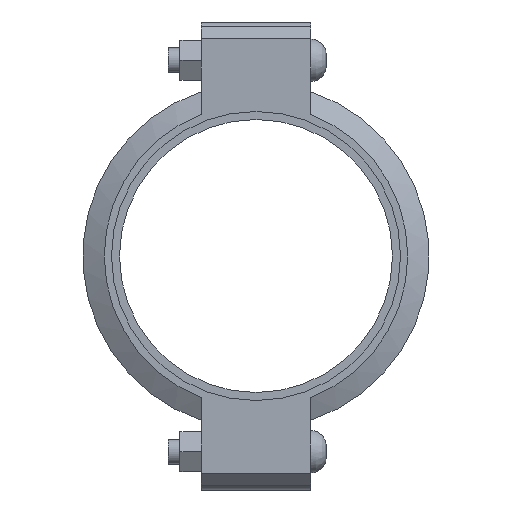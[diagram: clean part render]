
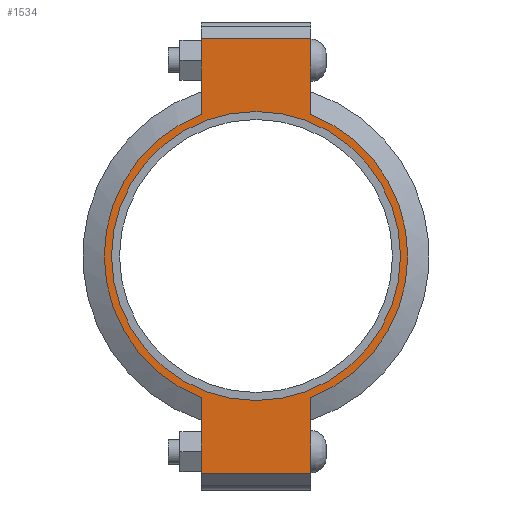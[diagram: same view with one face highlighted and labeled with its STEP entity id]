
A CAD part, left-side view. The second image highlights one B-rep face of the part: STEP entity #1534.
In plain terms, the highlighted planar face has unit normal (-1, 0, 0) as drawn and (0, 0, 1) by its records, which use the part's own axes.
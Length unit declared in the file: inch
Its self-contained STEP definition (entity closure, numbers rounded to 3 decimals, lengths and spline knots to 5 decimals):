
#158=LINE('',#2677,#251);
#166=LINE('',#2713,#259);
#173=LINE('',#2734,#266);
#182=LINE('',#2766,#275);
#183=LINE('',#2770,#276);
#184=LINE('',#2772,#277);
#251=VECTOR('',#2185,0.3937);
#259=VECTOR('',#2201,0.3937);
#266=VECTOR('',#2220,0.3937);
#275=VECTOR('',#2245,0.3937);
#276=VECTOR('',#2250,0.3937);
#277=VECTOR('',#2251,0.3937);
#333=FACE_BOUND('',#511,.T.);
#405=FACE_OUTER_BOUND('',#510,.T.);
#510=EDGE_LOOP('',(#1275,#1276,#1277,#1278,#1279,#1280,#1281,#1282));
#511=EDGE_LOOP('',(#1283));
#583=CIRCLE('',#1753,4.3125);
#609=CIRCLE('',#1812,4.53);
#610=CIRCLE('',#1813,4.53);
#675=VERTEX_POINT('',#2493);
#718=VERTEX_POINT('',#2674);
#719=VERTEX_POINT('',#2676);
#730=VERTEX_POINT('',#2708);
#731=VERTEX_POINT('',#2712);
#738=VERTEX_POINT('',#2731);
#739=VERTEX_POINT('',#2733);
#749=VERTEX_POINT('',#2769);
#750=VERTEX_POINT('',#2771);
#831=EDGE_CURVE('',#675,#675,#583,.T.);
#892=EDGE_CURVE('',#719,#718,#158,.T.);
#906=EDGE_CURVE('',#731,#730,#166,.T.);
#916=EDGE_CURVE('',#739,#738,#173,.T.);
#931=EDGE_CURVE('',#731,#718,#182,.T.);
#932=EDGE_CURVE('',#730,#739,#609,.T.);
#933=EDGE_CURVE('',#749,#738,#183,.T.);
#934=EDGE_CURVE('',#749,#750,#184,.T.);
#935=EDGE_CURVE('',#750,#719,#610,.T.);
#1275=ORIENTED_EDGE('',*,*,#931,.F.);
#1276=ORIENTED_EDGE('',*,*,#906,.T.);
#1277=ORIENTED_EDGE('',*,*,#932,.T.);
#1278=ORIENTED_EDGE('',*,*,#916,.T.);
#1279=ORIENTED_EDGE('',*,*,#933,.F.);
#1280=ORIENTED_EDGE('',*,*,#934,.T.);
#1281=ORIENTED_EDGE('',*,*,#935,.T.);
#1282=ORIENTED_EDGE('',*,*,#892,.T.);
#1283=ORIENTED_EDGE('',*,*,#831,.T.);
#1376=PLANE('',#1811);
#1534=ADVANCED_FACE('',(#405,#333),#1376,.T.);
#1753=AXIS2_PLACEMENT_3D('',#2495,#2061,#2062);
#1811=AXIS2_PLACEMENT_3D('',#2767,#2246,#2247);
#1812=AXIS2_PLACEMENT_3D('',#2768,#2248,#2249);
#1813=AXIS2_PLACEMENT_3D('',#2773,#2252,#2253);
#2061=DIRECTION('center_axis',(0.,0.,-1.));
#2062=DIRECTION('ref_axis',(-1.,0.,0.));
#2185=DIRECTION('',(-1.,0.,0.));
#2201=DIRECTION('',(1.,0.,0.));
#2220=DIRECTION('',(1.,0.,0.));
#2245=DIRECTION('',(0.,1.,0.));
#2246=DIRECTION('center_axis',(0.,0.,1.));
#2247=DIRECTION('ref_axis',(1.,0.,0.));
#2248=DIRECTION('center_axis',(0.,0.,1.));
#2249=DIRECTION('ref_axis',(-1.,0.,0.));
#2250=DIRECTION('',(0.,-1.,0.));
#2251=DIRECTION('',(-1.,0.,0.));
#2252=DIRECTION('center_axis',(0.,0.,1.));
#2253=DIRECTION('ref_axis',(-1.,0.,0.));
#2493=CARTESIAN_POINT('',(4.3125,0.,1.16));
#2495=CARTESIAN_POINT('Origin',(0.,0.,1.16));
#2674=CARTESIAN_POINT('',(-6.485,1.63,1.16));
#2676=CARTESIAN_POINT('',(-4.22658,1.63,1.16));
#2677=CARTESIAN_POINT('',(-6.985,1.63,1.16));
#2708=CARTESIAN_POINT('',(-4.22658,-1.63,1.16));
#2712=CARTESIAN_POINT('',(-6.485,-1.63,1.16));
#2713=CARTESIAN_POINT('',(6.985,-1.63,1.16));
#2731=CARTESIAN_POINT('',(6.485,-1.63,1.16));
#2733=CARTESIAN_POINT('',(4.22658,-1.63,1.16));
#2734=CARTESIAN_POINT('',(6.985,-1.63,1.16));
#2766=CARTESIAN_POINT('',(-6.485,0.815,1.16));
#2767=CARTESIAN_POINT('Origin',(0.,0.,
1.16));
#2768=CARTESIAN_POINT('Origin',(0.,0.,1.16));
#2769=CARTESIAN_POINT('',(6.485,1.63,1.16));
#2770=CARTESIAN_POINT('',(6.485,-0.815,1.16));
#2771=CARTESIAN_POINT('',(4.22658,1.63,1.16));
#2772=CARTESIAN_POINT('',(-6.985,1.63,1.16));
#2773=CARTESIAN_POINT('Origin',(0.,0.,1.16));
